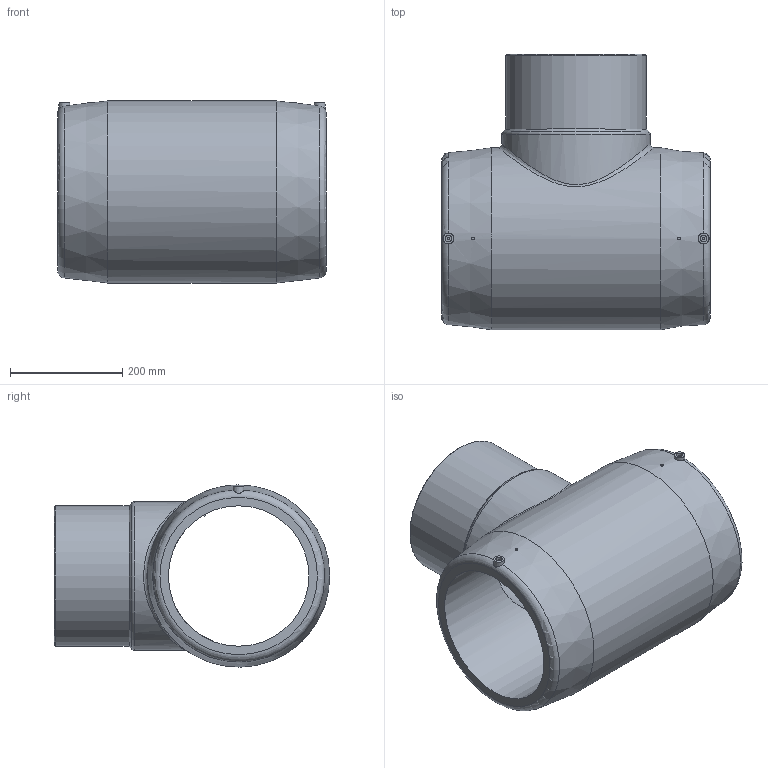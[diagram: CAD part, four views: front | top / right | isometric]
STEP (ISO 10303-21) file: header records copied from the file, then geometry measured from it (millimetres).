
FILE_DESCRIPTION(/* description */ ('Unknown'),/* implementation_level */ '2;1');
FILE_NAME(/* name */ 'TEP250C',/* time_stamp */ '2020-12-10T11:01:43+01:00',/* author */ ('Unknown'),/* organization */ ('Unknown'),/* preprocessor_version */ 'ST-DEVELOPER v16.7',/* originating_system */ 'Solid Edge',/* authorisation */ 'Unknown');
FILE_SCHEMA (('AUTOMOTIVE_DESIGN {1 0 10303 214 3 1 1}'));
Length unit declared in the file: millimetre
Products named in the file (1): TEP250C
Bounding box: 478 x 490 x 324 mm (x, y, z)
Volume: 17052875.3 mm3; surface area: 1121769.3 mm2
Topology: 1 solids, 1 shells, 37 faces, 79 edges, 51 vertices
Faces by surface type: plane 16, cylinder 11, cone 6, torus 3, bspline 1
Full cylindrical faces by diameter (mm): 4 x2, 5 x2, 11.5 x2, 204.6 x1, 250 x2, 264 x1, 324 x1
Entity records: 1397 total; most frequent: CARTESIAN_POINT 706, DIRECTION 140, ORIENTED_EDGE 94, EDGE_LOOP 70, FACE_BOUND 70, AXIS2_PLACEMENT_3D 65, EDGE_CURVE 47, VERTEX_POINT 41
